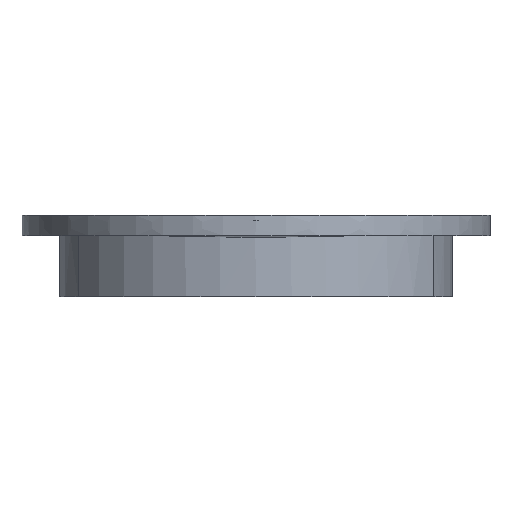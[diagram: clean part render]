
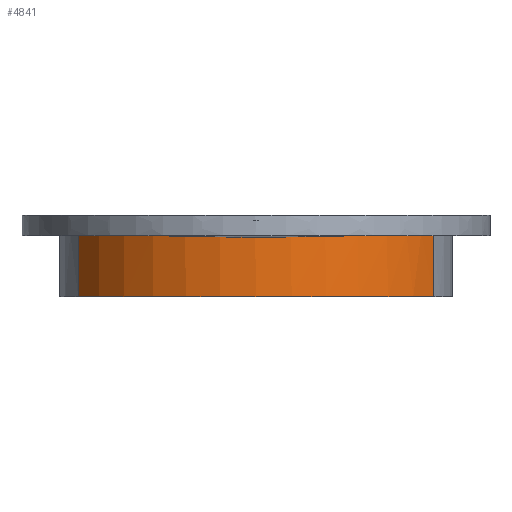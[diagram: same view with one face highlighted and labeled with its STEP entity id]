
A CAD part, left-side view. The second image highlights one B-rep face of the part: STEP entity #4841.
In plain terms, the highlighted cylindrical face has radius 63.5 mm (diameter 127 mm), a partial arc.
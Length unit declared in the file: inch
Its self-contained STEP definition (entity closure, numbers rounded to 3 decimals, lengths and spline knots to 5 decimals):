
#380=B_SPLINE_CURVE_WITH_KNOTS('',3,(#9964,#9965,#9966,#9967,#9968,#9969,
#9970,#9971,#9972,#9973,#9974,#9975,#9976,#9977,#9978,#9979,#9980,#9981),
 .UNSPECIFIED.,.F.,.F.,(4,2,2,2,2,2,2,2,4),(-13.33311,-11.67011,
-10.06838,-8.51904,-7.1886,-6.10479,
-4.7478,-2.24061,0.),.UNSPECIFIED.);
#573=CYLINDRICAL_SURFACE('',#4990,2.5);
#590=CIRCLE('',#4933,2.5);
#875=FACE_OUTER_BOUND('',#1173,.T.);
#1173=EDGE_LOOP('',(#4457,#4458,#4459,#4460));
#1508=LINE('',#9907,#1835);
#1511=LINE('',#9962,#1838);
#1835=VECTOR('',#5588,0.3937);
#1838=VECTOR('',#5593,0.3937);
#2300=VERTEX_POINT('',#9627);
#2301=VERTEX_POINT('',#9635);
#2335=VERTEX_POINT('',#9899);
#2338=VERTEX_POINT('',#9957);
#2996=EDGE_CURVE('',#2300,#2301,#590,.T.);
#3046=EDGE_CURVE('',#2301,#2335,#1508,.T.);
#3052=EDGE_CURVE('',#2300,#2338,#1511,.T.);
#3053=EDGE_CURVE('',#2335,#2338,#380,.T.);
#4457=ORIENTED_EDGE('',*,*,#3053,.F.);
#4458=ORIENTED_EDGE('',*,*,#3046,.F.);
#4459=ORIENTED_EDGE('',*,*,#2996,.F.);
#4460=ORIENTED_EDGE('',*,*,#3052,.T.);
#4841=ADVANCED_FACE('',(#875),#573,.T.);
#4933=AXIS2_PLACEMENT_3D('',#9636,#5461,#5462);
#4990=AXIS2_PLACEMENT_3D('',#9963,#5594,#5595);
#5461=DIRECTION('center_axis',(0.,0.,-1.));
#5462=DIRECTION('ref_axis',(1.,0.,0.));
#5588=DIRECTION('',(0.,0.,1.));
#5593=DIRECTION('',(0.,0.,1.));
#5594=DIRECTION('center_axis',(0.,0.,1.));
#5595=DIRECTION('ref_axis',(-1.,0.,0.));
#9627=CARTESIAN_POINT('',(-1.24879,-2.16576,0.005));
#9635=CARTESIAN_POINT('',(-1.2488,2.16575,0.005));
#9636=CARTESIAN_POINT('Origin',(0.,0.,0.005));
#9899=CARTESIAN_POINT('',(-1.2488,2.16575,0.78752));
#9907=CARTESIAN_POINT('',(-1.2488,2.16575,0.005));
#9957=CARTESIAN_POINT('',(-1.24879,-2.16576,0.78752));
#9962=CARTESIAN_POINT('',(-1.24879,-2.16576,0.005));
#9963=CARTESIAN_POINT('Origin',(0.,0.,0.005));
#9964=CARTESIAN_POINT('Ctrl Pts',(-1.2488,2.16575,0.78752));
#9965=CARTESIAN_POINT('Ctrl Pts',(-1.43781,2.05677,0.78232));
#9966=CARTESIAN_POINT('Ctrl Pts',(-1.61173,1.92352,0.77608));
#9967=CARTESIAN_POINT('Ctrl Pts',(-1.91482,1.62098,0.7634));
#9968=CARTESIAN_POINT('Ctrl Pts',(-2.04423,1.45439,0.75703));
#9969=CARTESIAN_POINT('Ctrl Pts',(-2.25482,1.09868,0.74603));
#9970=CARTESIAN_POINT('Ctrl Pts',(-2.33666,0.91178,0.74138));
#9971=CARTESIAN_POINT('Ctrl Pts',(-2.44504,0.54977,0.73523));
#9972=CARTESIAN_POINT('Ctrl Pts',(-2.47746,0.37773,0.73338));
#9973=CARTESIAN_POINT('Ctrl Pts',(-2.50328,0.06194,
0.73195));
#9974=CARTESIAN_POINT('Ctrl Pts',(-2.50275,-0.08057,
0.73198));
#9975=CARTESIAN_POINT('Ctrl Pts',(-2.47427,-0.39963,
0.73356));
#9976=CARTESIAN_POINT('Ctrl Pts',(-2.43953,-0.5748,
0.73555));
#9977=CARTESIAN_POINT('Ctrl Pts',(-2.28848,-1.05883,0.74411));
#9978=CARTESIAN_POINT('Ctrl Pts',(-2.12945,-1.3504,0.75318));
#9979=CARTESIAN_POINT('Ctrl Pts',(-1.7302,-1.82833,0.77161));
#9980=CARTESIAN_POINT('Ctrl Pts',(-1.50345,-2.01892,0.78051));
#9981=CARTESIAN_POINT('Ctrl Pts',(-1.24879,-2.16576,0.78752));
